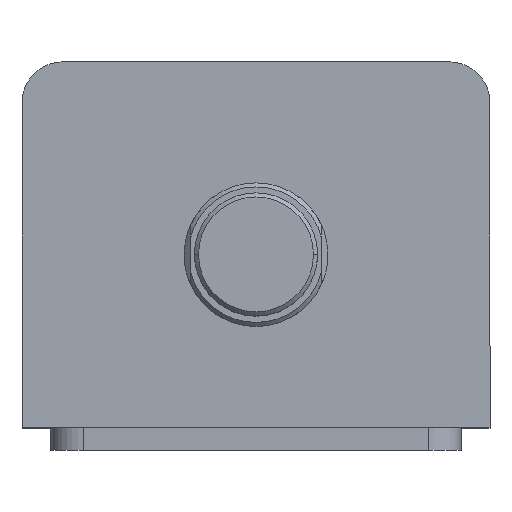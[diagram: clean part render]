
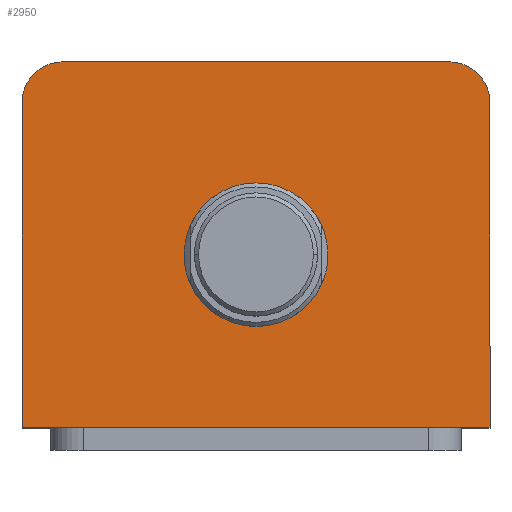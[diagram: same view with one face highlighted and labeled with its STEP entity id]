
A CAD part, top view. The second image highlights one B-rep face of the part: STEP entity #2950.
In plain terms, the highlighted planar face has unit normal (0, 0, 1).
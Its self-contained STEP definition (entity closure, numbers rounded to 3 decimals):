
#140 = CARTESIAN_POINT ( 'NONE',  ( 0., -2.5, 137. ) ) ;
#141 = DIRECTION ( 'NONE',  ( 0., 0., 1. ) ) ;
#142 = DIRECTION ( 'NONE',  ( 1., 0., 0. ) ) ;
#151 = CARTESIAN_POINT ( 'NONE',  ( 0., -2.5, 137. ) ) ;
#152 = DIRECTION ( 'NONE',  ( 0., 0., 1. ) ) ;
#153 = DIRECTION ( 'NONE',  ( 1., 0., 0. ) ) ;
#162 = CARTESIAN_POINT ( 'NONE',  ( -57., -44.5, 137. ) ) ;
#169 = DIRECTION ( 'NONE',  ( 1., 0., 0. ) ) ;
#190 = CARTESIAN_POINT ( 'NONE',  ( 47., 44.5, 137. ) ) ;
#193 = CARTESIAN_POINT ( 'NONE',  ( -47., 44.5, 137. ) ) ;
#201 = CARTESIAN_POINT ( 'NONE',  ( -57., 34.5, 137. ) ) ;
#216 = CARTESIAN_POINT ( 'NONE',  ( -57., 44.5, 137. ) ) ;
#220 = CARTESIAN_POINT ( 'NONE',  ( 47., 34.5, 137. ) ) ;
#221 = DIRECTION ( 'NONE',  ( 0., 0., 1. ) ) ;
#222 = DIRECTION ( 'NONE',  ( 1., 0., 0. ) ) ;
#226 = DIRECTION ( 'NONE',  ( -1., 0., 0. ) ) ;
#233 = CARTESIAN_POINT ( 'NONE',  ( -47., 34.5, 137. ) ) ;
#234 = DIRECTION ( 'NONE',  ( 0., 0., 1. ) ) ;
#235 = DIRECTION ( 'NONE',  ( 1., 0., 0. ) ) ;
#317 = CARTESIAN_POINT ( 'NONE',  ( 0., 0., 137. ) ) ;
#320 = PLANE ( 'NONE',  #986 ) ;
#322 = DIRECTION ( 'NONE',  ( 0., 0., 1. ) ) ;
#323 = DIRECTION ( 'NONE',  ( 1., 0., 0. ) ) ;
#401 = CARTESIAN_POINT ( 'NONE',  ( 57., 44.5, 137. ) ) ;
#402 = DIRECTION ( 'NONE',  ( 0., 1., 0. ) ) ;
#763 = VERTEX_POINT ( 'NONE', #1974 ) ;
#764 = VERTEX_POINT ( 'NONE', #1975 ) ;
#765 = VERTEX_POINT ( 'NONE', #1976 ) ;
#767 = VERTEX_POINT ( 'NONE', #1978 ) ;
#783 = VERTEX_POINT ( 'NONE', #1244 ) ;
#795 = VERTEX_POINT ( 'NONE', #190 ) ;
#798 = VERTEX_POINT ( 'NONE', #193 ) ;
#806 = VERTEX_POINT ( 'NONE', #201 ) ;
#817 = CIRCLE ( 'NONE', #912, 10. ) ;
#824 = LINE ( 'NONE', #216, #826 ) ;
#825 = CIRCLE ( 'NONE', #909, 10. ) ;
#826 = VECTOR ( 'NONE', #226, 1000. ) ;
#834 = CIRCLE ( 'NONE', #967, 17.5 ) ;
#839 = CIRCLE ( 'NONE', #1010, 17.5 ) ;
#865 = EDGE_CURVE ( 'NONE', #783, #795, #817, .T. ) ;
#890 = EDGE_CURVE ( 'NONE', #795, #798, #824, .T. ) ;
#893 = EDGE_CURVE ( 'NONE', #798, #806, #825, .T. ) ;
#909 = AXIS2_PLACEMENT_3D ( 'NONE', #233, #234, #235 ) ;
#912 = AXIS2_PLACEMENT_3D ( 'NONE', #220, #221, #222 ) ;
#921 = EDGE_CURVE ( 'NONE', #763, #765, #834, .T. ) ;
#925 = EDGE_CURVE ( 'NONE', #765, #763, #839, .T. ) ;
#934 = EDGE_CURVE ( 'NONE', #764, #767, #1523, .T. ) ;
#960 = EDGE_CURVE ( 'NONE', #767, #783, #1555, .T. ) ;
#967 = AXIS2_PLACEMENT_3D ( 'NONE', #140, #141, #142 ) ;
#986 = AXIS2_PLACEMENT_3D ( 'NONE', #317, #322, #323 ) ;
#1010 = AXIS2_PLACEMENT_3D ( 'NONE', #151, #152, #153 ) ;
#1244 = CARTESIAN_POINT ( 'NONE',  ( 57., 34.5, 137. ) ) ;
#1523 = LINE ( 'NONE', #162, #1530 ) ;
#1530 = VECTOR ( 'NONE', #169, 1000. ) ;
#1555 = LINE ( 'NONE', #401, #1558 ) ;
#1558 = VECTOR ( 'NONE', #402, 1000. ) ;
#1646 = FACE_OUTER_BOUND ( 'NONE', #3123, .T. ) ;
#1654 = FACE_BOUND ( 'NONE', #3121, .T. ) ;
#1912 = ORIENTED_EDGE ( 'NONE', *, *, #925, .F. ) ;
#1913 = ORIENTED_EDGE ( 'NONE', *, *, #921, .F. ) ;
#1914 = ORIENTED_EDGE ( 'NONE', *, *, #890, .T. ) ;
#1915 = ORIENTED_EDGE ( 'NONE', *, *, #893, .T. ) ;
#1916 = ORIENTED_EDGE ( 'NONE', *, *, #3372, .T. ) ;
#1917 = ORIENTED_EDGE ( 'NONE', *, *, #934, .T. ) ;
#1918 = ORIENTED_EDGE ( 'NONE', *, *, #960, .T. ) ;
#1919 = ORIENTED_EDGE ( 'NONE', *, *, #865, .T. ) ;
#1974 = CARTESIAN_POINT ( 'NONE',  ( -17.5, -2.5, 137. ) ) ;
#1975 = CARTESIAN_POINT ( 'NONE',  ( -57., -44.5, 137. ) ) ;
#1976 = CARTESIAN_POINT ( 'NONE',  ( 17.5, -2.5, 137. ) ) ;
#1978 = CARTESIAN_POINT ( 'NONE',  ( 57., -44.5, 137. ) ) ;
#2138 = LINE ( 'NONE', #2454, #2139 ) ;
#2139 = VECTOR ( 'NONE', #2455, 1000. ) ;
#2454 = CARTESIAN_POINT ( 'NONE',  ( -57., 44.5, 137. ) ) ;
#2455 = DIRECTION ( 'NONE',  ( 0., -1., 0. ) ) ;
#2950 = ADVANCED_FACE ( 'NONE', ( #1654, #1646 ), #320, .T. ) ;
#3121 = EDGE_LOOP ( 'NONE', ( #1912, #1913 ) ) ;
#3123 = EDGE_LOOP ( 'NONE', ( #1914, #1915, #1916, #1917, #1918, #1919 ) ) ;
#3372 = EDGE_CURVE ( 'NONE', #806, #764, #2138, .T. ) ;
